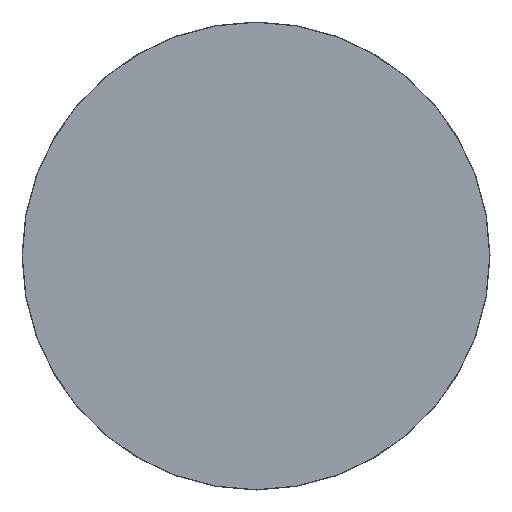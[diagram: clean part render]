
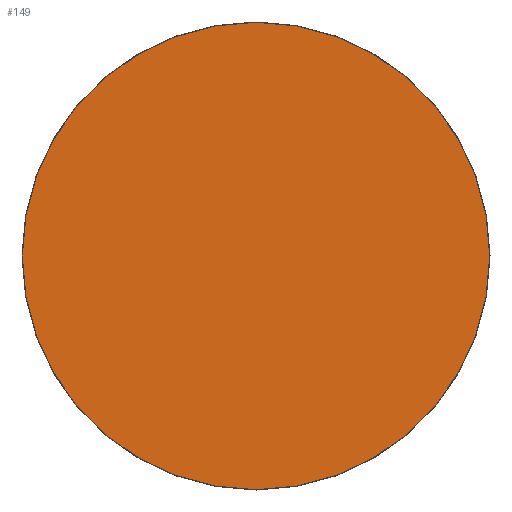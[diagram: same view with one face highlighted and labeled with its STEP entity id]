
A CAD part, front view. The second image highlights one B-rep face of the part: STEP entity #149.
In plain terms, the highlighted planar face has unit normal (0, -1, 0).
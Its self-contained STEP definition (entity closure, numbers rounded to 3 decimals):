
#149=ADVANCED_FACE('',(#420),#422,.T.);
#420=FACE_BOUND('',#421,.T.);
#421=EDGE_LOOP('',(#642));
#422=PLANE('',#423);
#423=AXIS2_PLACEMENT_3D('',#424,#425,#426);
#424=CARTESIAN_POINT('',(0.,0.,0.));
#425=DIRECTION('',(0.,-1.,0.));
#426=DIRECTION('',(0.,0.,-1.));
#642=ORIENTED_EDGE('',*,*,#756,.T.);
#756=EDGE_CURVE('',#813,#813,#814,.T.);
#813=VERTEX_POINT('',#914);
#814=CIRCLE('',#915,998.5);
#914=CARTESIAN_POINT('',(-998.5,0.,0.));
#915=AXIS2_PLACEMENT_3D('',#916,#917,#918);
#916=CARTESIAN_POINT('',(0.,0.,0.));
#917=DIRECTION('',(0.,-1.,0.));
#918=DIRECTION('',(-1.,-0.,0.));
